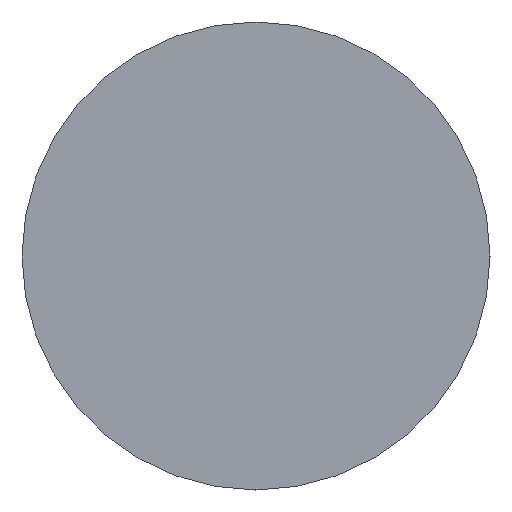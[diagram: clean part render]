
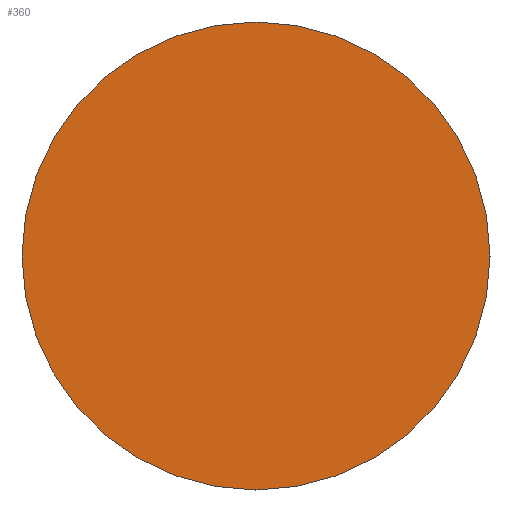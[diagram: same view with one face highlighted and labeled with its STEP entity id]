
A CAD part, left-side view. The second image highlights one B-rep face of the part: STEP entity #360.
In plain terms, the highlighted planar face has unit normal (-1, 0, 0).
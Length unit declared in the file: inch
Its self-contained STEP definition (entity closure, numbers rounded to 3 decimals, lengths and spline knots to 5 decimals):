
#3 = VERTEX_POINT ( 'NONE', #478 ) ;
#9 = CARTESIAN_POINT ( 'NONE',  ( -4., 0., 0. ) ) ;
#39 = AXIS2_PLACEMENT_3D ( 'NONE', #9, #177, #328 ) ;
#42 = DIRECTION ( 'NONE',  ( 1., 0., 0. ) ) ;
#44 = DIRECTION ( 'NONE',  ( 0., 0., -1. ) ) ;
#48 = EDGE_CURVE ( 'NONE', #3, #124, #337, .T. ) ;
#64 = DIRECTION ( 'NONE',  ( 0., 0., 1. ) ) ;
#124 = VERTEX_POINT ( 'NONE', #267 ) ;
#144 = EDGE_CURVE ( 'NONE', #124, #3, #479, .T. ) ;
#170 = EDGE_LOOP ( 'NONE', ( #307, #348 ) ) ;
#177 = DIRECTION ( 'NONE',  ( -1., 0., 0. ) ) ;
#222 = CARTESIAN_POINT ( 'NONE',  ( -4., 0., 0. ) ) ;
#267 = CARTESIAN_POINT ( 'NONE',  ( -4., 0., 0.1875 ) ) ;
#296 = AXIS2_PLACEMENT_3D ( 'NONE', #222, #301, #64 ) ;
#301 = DIRECTION ( 'NONE',  ( -1., 0., 0. ) ) ;
#307 = ORIENTED_EDGE ( 'NONE', *, *, #144, .T. ) ;
#328 = DIRECTION ( 'NONE',  ( 0., 0., 1. ) ) ;
#337 = CIRCLE ( 'NONE', #39, 0.1875 ) ;
#348 = ORIENTED_EDGE ( 'NONE', *, *, #48, .T. ) ;
#349 = CARTESIAN_POINT ( 'NONE',  ( -4., 0.1875, 0. ) ) ;
#360 = ADVANCED_FACE ( 'NONE', ( #499 ), #394, .F. ) ;
#394 = PLANE ( 'NONE',  #472 ) ;
#472 = AXIS2_PLACEMENT_3D ( 'NONE', #349, #42, #44 ) ;
#478 = CARTESIAN_POINT ( 'NONE',  ( -4., 0., -0.1875 ) ) ;
#479 = CIRCLE ( 'NONE', #296, 0.1875 ) ;
#499 = FACE_OUTER_BOUND ( 'NONE', #170, .T. ) ;
